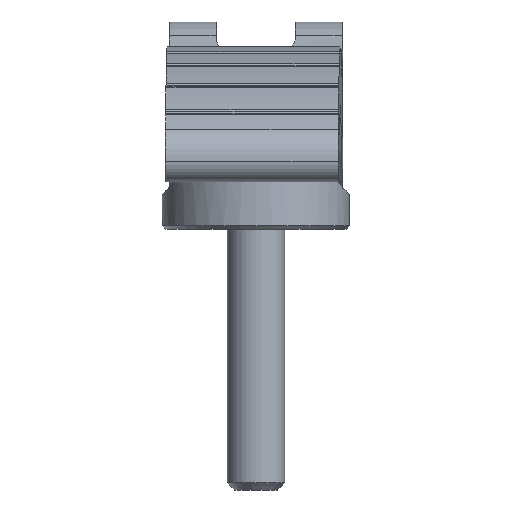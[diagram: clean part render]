
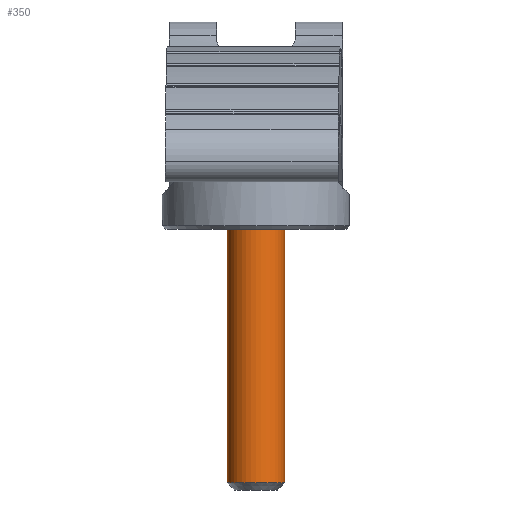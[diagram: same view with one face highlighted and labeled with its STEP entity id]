
A CAD part, left-side view. The second image highlights one B-rep face of the part: STEP entity #350.
In plain terms, the highlighted cylindrical face has radius 4 mm (diameter 8 mm), a full revolution.
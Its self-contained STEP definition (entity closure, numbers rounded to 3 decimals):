
#350=ADVANCED_FACE('',(#1155,#1157),#1159,.T.);
#1155=FACE_BOUND('',#1156,.T.);
#1156=EDGE_LOOP('',(#1581,#1582));
#1157=FACE_BOUND('',#1158,.T.);
#1158=EDGE_LOOP('',(#1583,#1584));
#1159=CYLINDRICAL_SURFACE('',#1160,4.);
#1160=AXIS2_PLACEMENT_3D('',#1161,#1162,#1163);
#1161=CARTESIAN_POINT('',(0.,0.,0.));
#1162=DIRECTION('',(-1.,0.,0.));
#1163=DIRECTION('',(0.,1.,0.));
#1581=ORIENTED_EDGE('',*,*,#1802,.T.);
#1582=ORIENTED_EDGE('',*,*,#1803,.T.);
#1583=ORIENTED_EDGE('',*,*,#1804,.T.);
#1584=ORIENTED_EDGE('',*,*,#1805,.T.);
#1802=EDGE_CURVE('',#2093,#2094,#2095,.T.);
#1803=EDGE_CURVE('',#2094,#2093,#2096,.T.);
#1804=EDGE_CURVE('',#2097,#2098,#2099,.T.);
#1805=EDGE_CURVE('',#2098,#2097,#2100,.T.);
#2093=VERTEX_POINT('',#4310);
#2094=VERTEX_POINT('',#4311);
#2095=CIRCLE('',#4312,4.);
#2096=CIRCLE('',#4316,4.);
#2097=VERTEX_POINT('',#4320);
#2098=VERTEX_POINT('',#4321);
#2099=CIRCLE('',#4322,4.);
#2100=CIRCLE('',#4326,4.);
#4310=CARTESIAN_POINT('',(-1.,4.,0.));
#4311=CARTESIAN_POINT('',(-1.,-4.,0.));
#4312=AXIS2_PLACEMENT_3D('',#4313,#4314,#4315);
#4313=CARTESIAN_POINT('',(-1.,0.,0.));
#4314=DIRECTION('',(-1.,0.,0.));
#4315=DIRECTION('',(0.,1.,0.));
#4316=AXIS2_PLACEMENT_3D('',#4317,#4318,#4319);
#4317=CARTESIAN_POINT('',(-1.,0.,0.));
#4318=DIRECTION('',(-1.,0.,0.));
#4319=DIRECTION('',(0.,-1.,0.));
#4320=CARTESIAN_POINT('',(-59.,4.,0.));
#4321=CARTESIAN_POINT('',(-59.,0.,4.));
#4322=AXIS2_PLACEMENT_3D('',#4323,#4324,#4325);
#4323=CARTESIAN_POINT('',(-59.,0.,0.));
#4324=DIRECTION('',(1.,0.,0.));
#4325=DIRECTION('',(0.,1.,0.));
#4326=AXIS2_PLACEMENT_3D('',#4327,#4328,#4329);
#4327=CARTESIAN_POINT('',(-59.,0.,0.));
#4328=DIRECTION('',(1.,0.,0.));
#4329=DIRECTION('',(0.,0.,1.));
